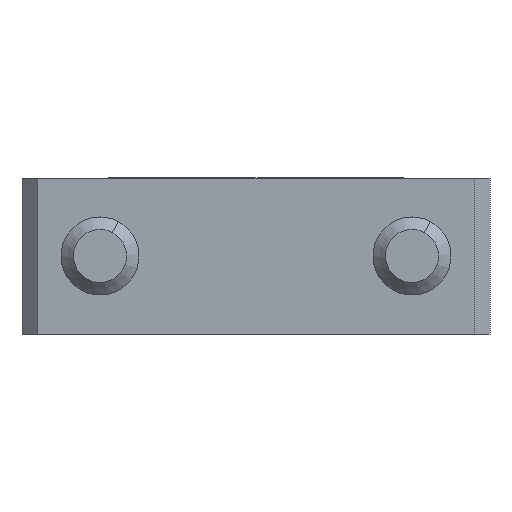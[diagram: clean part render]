
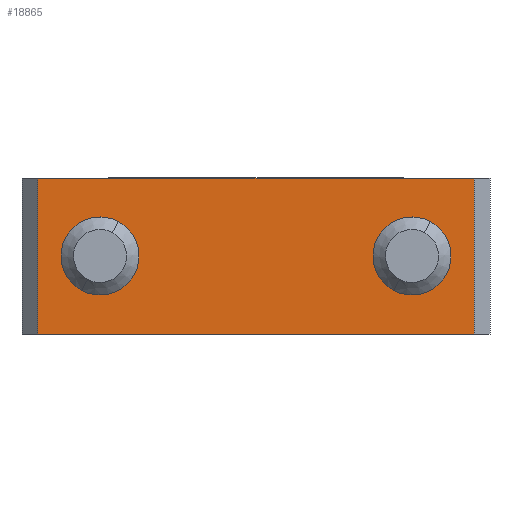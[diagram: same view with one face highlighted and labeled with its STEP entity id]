
A CAD part, front view. The second image highlights one B-rep face of the part: STEP entity #18865.
In plain terms, the highlighted planar face has unit normal (0, -1, 0).
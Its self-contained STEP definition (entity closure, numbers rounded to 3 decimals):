
#110 = LINE ( 'NONE', #15679, #13255 ) ;
#231 = CIRCLE ( 'NONE', #1107, 2.5 ) ;
#458 = DIRECTION ( 'NONE',  ( 0., -1., 0. ) ) ;
#706 = EDGE_CURVE ( 'NONE', #17987, #5776, #2394, .T. ) ;
#804 = EDGE_CURVE ( 'NONE', #5776, #17987, #231, .T. ) ;
#1107 = AXIS2_PLACEMENT_3D ( 'NONE', #15280, #4972, #16988 ) ;
#1371 = CARTESIAN_POINT ( 'NONE',  ( 18.412, 15.323, 0. ) ) ;
#1952 = EDGE_CURVE ( 'NONE', #13757, #18898, #13532, .T. ) ;
#2135 = ORIENTED_EDGE ( 'NONE', *, *, #706, .F. ) ;
#2394 = CIRCLE ( 'NONE', #16508, 2.5 ) ;
#2539 = VECTOR ( 'NONE', #6181, 1000. ) ;
#3027 = CARTESIAN_POINT ( 'NONE',  ( -1.588, 15.323, 0. ) ) ;
#3102 = DIRECTION ( 'NONE',  ( 0., 0., 1. ) ) ;
#3251 = EDGE_LOOP ( 'NONE', ( #7178, #18304 ) ) ;
#3394 = DIRECTION ( 'NONE',  ( 0., 0., 1. ) ) ;
#3978 = CARTESIAN_POINT ( 'NONE',  ( 22.412, 15.323, 5. ) ) ;
#3987 = ORIENTED_EDGE ( 'NONE', *, *, #7307, .T. ) ;
#4247 = DIRECTION ( 'NONE',  ( 0., 1., 0. ) ) ;
#4517 = EDGE_CURVE ( 'NONE', #7808, #20336, #16140, .T. ) ;
#4743 = DIRECTION ( 'NONE',  ( 0., 0., 1. ) ) ;
#4972 = DIRECTION ( 'NONE',  ( 0., -1., 0. ) ) ;
#5099 = EDGE_LOOP ( 'NONE', ( #13475, #7549, #3987, #19776 ) ) ;
#5776 = VERTEX_POINT ( 'NONE', #17989 ) ;
#6181 = DIRECTION ( 'NONE',  ( 1., 0., 0. ) ) ;
#6430 = VERTEX_POINT ( 'NONE', #7502 ) ;
#6988 = CIRCLE ( 'NONE', #16751, 2.5 ) ;
#7178 = ORIENTED_EDGE ( 'NONE', *, *, #19372, .T. ) ;
#7307 = EDGE_CURVE ( 'NONE', #20336, #13757, #20290, .T. ) ;
#7502 = CARTESIAN_POINT ( 'NONE',  ( -1.588, 15.323, 2.5 ) ) ;
#7549 = ORIENTED_EDGE ( 'NONE', *, *, #4517, .T. ) ;
#7808 = VERTEX_POINT ( 'NONE', #20868 ) ;
#8875 = FACE_BOUND ( 'NONE', #3251, .T. ) ;
#8918 = CIRCLE ( 'NONE', #9324, 2.5 ) ;
#9324 = AXIS2_PLACEMENT_3D ( 'NONE', #3027, #15034, #4743 ) ;
#9393 = FACE_OUTER_BOUND ( 'NONE', #5099, .T. ) ;
#9420 = ORIENTED_EDGE ( 'NONE', *, *, #804, .F. ) ;
#10270 = EDGE_LOOP ( 'NONE', ( #9420, #2135 ) ) ;
#10663 = PLANE ( 'NONE',  #20082 ) ;
#10731 = CARTESIAN_POINT ( 'NONE',  ( -5.588, 15.323, 5. ) ) ;
#12464 = DIRECTION ( 'NONE',  ( 0., 0., -1. ) ) ;
#13255 = VECTOR ( 'NONE', #17398, 1000. ) ;
#13316 = CARTESIAN_POINT ( 'NONE',  ( 22.412, 15.323, -5. ) ) ;
#13386 = DIRECTION ( 'NONE',  ( 0., -1., 0. ) ) ;
#13475 = ORIENTED_EDGE ( 'NONE', *, *, #13925, .T. ) ;
#13532 = LINE ( 'NONE', #20470, #17603 ) ;
#13581 = CARTESIAN_POINT ( 'NONE',  ( -5.588, 15.323, -5. ) ) ;
#13757 = VERTEX_POINT ( 'NONE', #13316 ) ;
#13925 = EDGE_CURVE ( 'NONE', #18898, #7808, #110, .T. ) ;
#14281 = VERTEX_POINT ( 'NONE', #20523 ) ;
#14538 = CARTESIAN_POINT ( 'NONE',  ( -1.588, 15.323, 0. ) ) ;
#15034 = DIRECTION ( 'NONE',  ( 0., 1., 0. ) ) ;
#15280 = CARTESIAN_POINT ( 'NONE',  ( 18.412, 15.323, 0. ) ) ;
#15679 = CARTESIAN_POINT ( 'NONE',  ( 8.412, 15.323, 5. ) ) ;
#16140 = LINE ( 'NONE', #19870, #20174 ) ;
#16185 = EDGE_CURVE ( 'NONE', #14281, #6430, #8918, .T. ) ;
#16286 = DIRECTION ( 'NONE',  ( 0., 0., 1. ) ) ;
#16508 = AXIS2_PLACEMENT_3D ( 'NONE', #1371, #13386, #3102 ) ;
#16751 = AXIS2_PLACEMENT_3D ( 'NONE', #14538, #4247, #16286 ) ;
#16988 = DIRECTION ( 'NONE',  ( 0., 0., 1. ) ) ;
#17398 = DIRECTION ( 'NONE',  ( -1., 0., 0. ) ) ;
#17603 = VECTOR ( 'NONE', #3394, 1000. ) ;
#17987 = VERTEX_POINT ( 'NONE', #19223 ) ;
#17989 = CARTESIAN_POINT ( 'NONE',  ( 18.412, 15.323, 2.5 ) ) ;
#18235 = CARTESIAN_POINT ( 'NONE',  ( 8.412, 15.323, -5. ) ) ;
#18304 = ORIENTED_EDGE ( 'NONE', *, *, #16185, .T. ) ;
#18865 = ADVANCED_FACE ( 'NONE', ( #8875, #22028, #9393 ), #10663, .T. ) ;
#18898 = VERTEX_POINT ( 'NONE', #3978 ) ;
#19223 = CARTESIAN_POINT ( 'NONE',  ( 18.412, 15.323, -2.5 ) ) ;
#19372 = EDGE_CURVE ( 'NONE', #6430, #14281, #6988, .T. ) ;
#19776 = ORIENTED_EDGE ( 'NONE', *, *, #1952, .T. ) ;
#19870 = CARTESIAN_POINT ( 'NONE',  ( -5.588, 15.323, 0. ) ) ;
#20082 = AXIS2_PLACEMENT_3D ( 'NONE', #10731, #458, #12464 ) ;
#20174 = VECTOR ( 'NONE', #21589, 1000. ) ;
#20290 = LINE ( 'NONE', #18235, #2539 ) ;
#20336 = VERTEX_POINT ( 'NONE', #13581 ) ;
#20470 = CARTESIAN_POINT ( 'NONE',  ( 22.412, 15.323, 0. ) ) ;
#20523 = CARTESIAN_POINT ( 'NONE',  ( -1.588, 15.323, -2.5 ) ) ;
#20868 = CARTESIAN_POINT ( 'NONE',  ( -5.588, 15.323, 5. ) ) ;
#21589 = DIRECTION ( 'NONE',  ( 0., 0., -1. ) ) ;
#22028 = FACE_BOUND ( 'NONE', #10270, .T. ) ;
